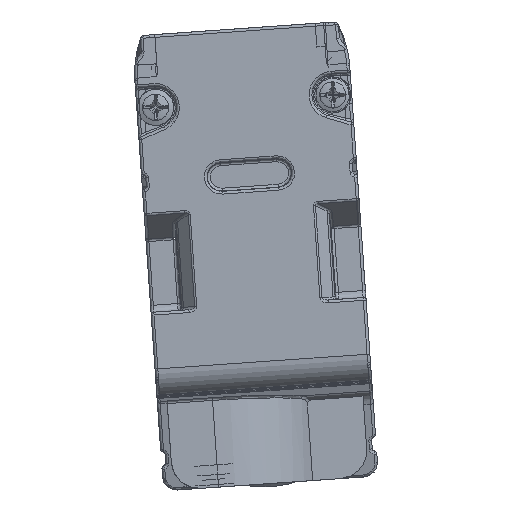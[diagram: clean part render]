
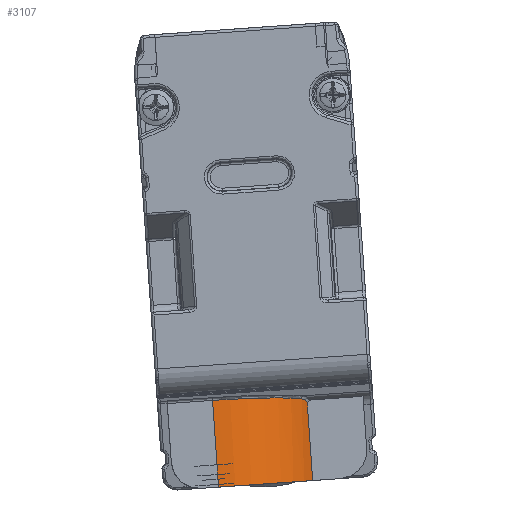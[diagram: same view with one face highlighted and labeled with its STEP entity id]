
A CAD part, front view. The second image highlights one B-rep face of the part: STEP entity #3107.
In plain terms, the highlighted cylindrical face has radius 7.5 mm (diameter 15 mm), a partial arc.
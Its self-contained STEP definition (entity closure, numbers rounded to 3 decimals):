
#961=B_SPLINE_CURVE_WITH_KNOTS('',3,(#30755,#30756,#30757,#30758,#30759,
#30760,#30761),.UNSPECIFIED.,.F.,.F.,(4,3,4),(0.,0.485,1.),.UNSPECIFIED.);
#1272=CYLINDRICAL_SURFACE('',#21694,7.5);
#1664=CIRCLE('',#21693,7.5);
#3107=ADVANCED_FACE('',(#4484),#1272,.T.);
#4484=FACE_OUTER_BOUND('',#5469,.T.);
#5469=EDGE_LOOP('',(#6731,#6732,#6733,#6734,#6735));
#6605=ELLIPSE('',#21692,7.53,7.5);
#6731=ORIENTED_EDGE('',*,*,#14833,.T.);
#6732=ORIENTED_EDGE('',*,*,#14834,.T.);
#6733=ORIENTED_EDGE('',*,*,#14835,.T.);
#6734=ORIENTED_EDGE('',*,*,#14836,.T.);
#6735=ORIENTED_EDGE('',*,*,#14837,.F.);
#12374=VERTEX_POINT('',#30753);
#12375=VERTEX_POINT('',#30754);
#12376=VERTEX_POINT('',#30762);
#12377=VERTEX_POINT('',#30764);
#12378=VERTEX_POINT('',#30766);
#14833=EDGE_CURVE('',#12374,#12375,#18334,.T.);
#14834=EDGE_CURVE('',#12375,#12376,#961,.T.);
#14835=EDGE_CURVE('',#12376,#12377,#6605,.T.);
#14836=EDGE_CURVE('',#12377,#12378,#18335,.T.);
#14837=EDGE_CURVE('',#12374,#12378,#1664,.T.);
#18334=LINE('',#30752,#19954);
#18335=LINE('',#30765,#19955);
#19954=VECTOR('',#24183,1.);
#19955=VECTOR('',#24186,1.);
#21692=AXIS2_PLACEMENT_3D('',#30763,#24184,#24185);
#21693=AXIS2_PLACEMENT_3D('',#30767,#24187,#24188);
#21694=AXIS2_PLACEMENT_3D('',#30768,#24189,#24190);
#24183=DIRECTION('',(-0.07,0.,0.998));
#24184=DIRECTION('',(0.069,-0.089,-0.994));
#24185=DIRECTION('',(0.006,0.996,-0.089));
#24186=DIRECTION('',(0.07,0.,-0.998));
#24187=DIRECTION('',(0.07,0.,-0.998));
#24188=DIRECTION('',(0.998,0.,0.07));
#24189=DIRECTION('',(0.07,0.,-0.998));
#24190=DIRECTION('',(0.,-1.,0.));
#30752=CARTESIAN_POINT('',(-40.701,-740.597,14.888));
#30753=CARTESIAN_POINT('',(-40.701,-740.597,14.888));
#30754=CARTESIAN_POINT('',(-41.088,-740.597,20.435));
#30755=CARTESIAN_POINT('',(-41.088,-740.597,20.435));
#30756=CARTESIAN_POINT('',(-41.139,-740.686,20.528));
#30757=CARTESIAN_POINT('',(-41.198,-740.793,20.603));
#30758=CARTESIAN_POINT('',(-41.263,-740.905,20.654));
#30759=CARTESIAN_POINT('',(-41.332,-741.024,20.708));
#30760=CARTESIAN_POINT('',(-41.408,-741.152,20.738));
#30761=CARTESIAN_POINT('',(-41.487,-741.278,20.743));
#30762=CARTESIAN_POINT('',(-41.487,-741.278,20.743));
#30763=CARTESIAN_POINT('',(-47.816,-737.318,19.944));
#30764=CARTESIAN_POINT('',(-47.863,-744.818,20.616));
#30765=CARTESIAN_POINT('',(-47.667,-744.818,17.815));
#30766=CARTESIAN_POINT('',(-47.43,-744.818,14.418));
#30767=CARTESIAN_POINT('',(-47.43,-737.318,14.418));
#30768=CARTESIAN_POINT('',(-52.434,-737.318,85.982));
